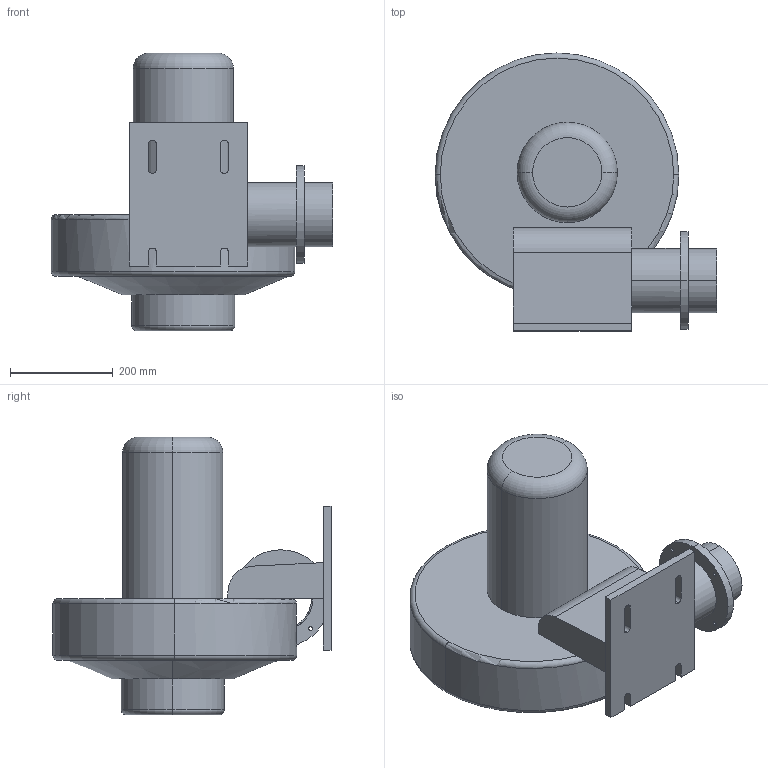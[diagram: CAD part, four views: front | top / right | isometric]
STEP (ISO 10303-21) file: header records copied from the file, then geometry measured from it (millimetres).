
FILE_DESCRIPTION (( 'STEP AP203' ), '1' );
FILE_NAME ('CX-2200.STEP', '2019-04-25T09:04:42', ( 'User' ), ( 'www.dadighost.com' ), 'SwSTEP 2.0', 'SolidWorks 2014', '' );
FILE_SCHEMA (( 'CONFIG_CONTROL_DESIGN' ));
Length unit declared in the file: millimetre
Products named in the file (1): CX-2200
Bounding box: 548.06 x 540.85 x 540 mm (x, y, z)
Volume: 39683091.4 mm3; surface area: 1259261.5 mm2
Topology: 3 solids, 3 shells, 73 faces, 181 edges, 118 vertices
Faces by surface type: cylinder 31, plane 31, torus 9, cone 2
Entity records: 2438 total; most frequent: CARTESIAN_POINT 527, DIRECTION 407, ORIENTED_EDGE 362, EDGE_CURVE 181, AXIS2_PLACEMENT_3D 158, VERTEX_POINT 118, LINE 91, VECTOR 91
